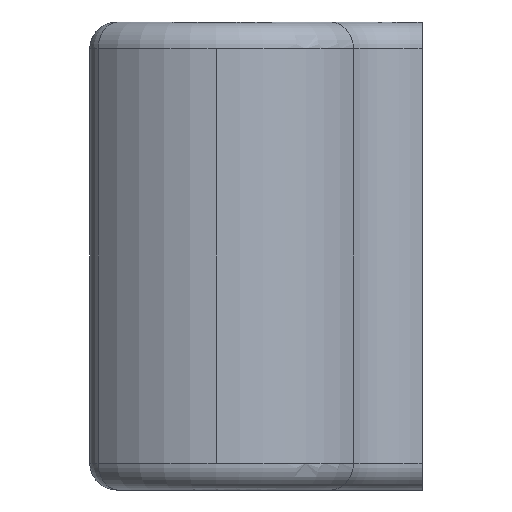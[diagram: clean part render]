
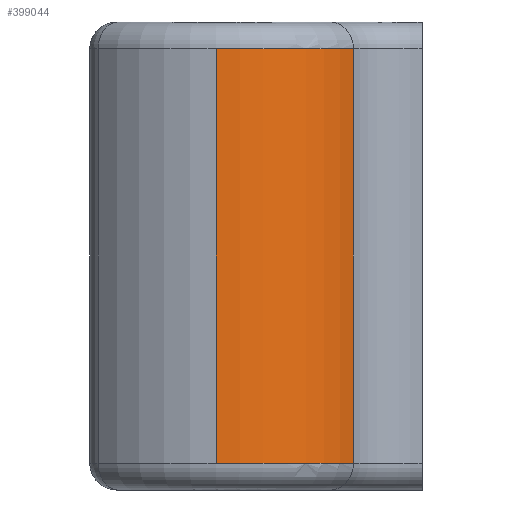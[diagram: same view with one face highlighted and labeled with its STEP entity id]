
A CAD part, left-side view. The second image highlights one B-rep face of the part: STEP entity #399044.
In plain terms, the highlighted cylindrical face has radius 14.981 mm (diameter 29.962 mm), a partial arc.
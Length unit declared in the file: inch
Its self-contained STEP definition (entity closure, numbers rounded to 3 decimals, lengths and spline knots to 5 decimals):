
#24990 = CYLINDRICAL_SURFACE ( 'NONE', #184323, 0.5898 ) ;
#31772 = EDGE_CURVE ( 'NONE', #355376, #74034, #201033, .T. ) ;
#37057 = EDGE_LOOP ( 'NONE', ( #179401, #285954, #321635, #51343 ) ) ;
#51343 = ORIENTED_EDGE ( 'NONE', *, *, #286778, .F. ) ;
#74034 = VERTEX_POINT ( 'NONE', #289309 ) ;
#91687 = LINE ( 'NONE', #216496, #359571 ) ;
#117173 = AXIS2_PLACEMENT_3D ( 'NONE', #308348, #306321, #208147 ) ;
#120792 = CARTESIAN_POINT ( 'NONE',  ( -2.42217, 0.53306, 0.875 ) ) ;
#144824 = DIRECTION ( 'NONE',  ( 0., 0., -1. ) ) ;
#150344 = EDGE_CURVE ( 'NONE', #316342, #242337, #293620, .T. ) ;
#171497 = DIRECTION ( 'NONE',  ( 1., 0., 0. ) ) ;
#179401 = ORIENTED_EDGE ( 'NONE', *, *, #31772, .T. ) ;
#184323 = AXIS2_PLACEMENT_3D ( 'NONE', #245924, #399393, #213202 ) ;
#194848 = CARTESIAN_POINT ( 'NONE',  ( -2.42217, 0.53306, -0.775 ) ) ;
#201033 = CIRCLE ( 'NONE', #358158, 0.5898 ) ;
#208147 = DIRECTION ( 'NONE',  ( 1., 0., 0. ) ) ;
#213202 = DIRECTION ( 'NONE',  ( -1., 0., 0. ) ) ;
#216496 = CARTESIAN_POINT ( 'NONE',  ( -2.12333, 0.02002, 0.875 ) ) ;
#242337 = VERTEX_POINT ( 'NONE', #319031 ) ;
#245924 = CARTESIAN_POINT ( 'NONE',  ( -1.83237, 0.53306, 0.875 ) ) ;
#245997 = CARTESIAN_POINT ( 'NONE',  ( -2.12333, 0.02002, 0.775 ) ) ;
#270568 = EDGE_CURVE ( 'NONE', #74034, #316342, #307012, .T. ) ;
#276625 = FACE_OUTER_BOUND ( 'NONE', #37057, .T. ) ;
#285954 = ORIENTED_EDGE ( 'NONE', *, *, #270568, .T. ) ;
#286778 = EDGE_CURVE ( 'NONE', #355376, #242337, #91687, .T. ) ;
#289309 = CARTESIAN_POINT ( 'NONE',  ( -2.42217, 0.53306, 0.775 ) ) ;
#293620 = CIRCLE ( 'NONE', #117173, 0.5898 ) ;
#306321 = DIRECTION ( 'NONE',  ( 0., 0., 1. ) ) ;
#307012 = LINE ( 'NONE', #120792, #346159 ) ;
#308348 = CARTESIAN_POINT ( 'NONE',  ( -1.83237, 0.53306, -0.775 ) ) ;
#309039 = DIRECTION ( 'NONE',  ( 0., 0., -1. ) ) ;
#316342 = VERTEX_POINT ( 'NONE', #194848 ) ;
#319031 = CARTESIAN_POINT ( 'NONE',  ( -2.12333, 0.02002, -0.775 ) ) ;
#321635 = ORIENTED_EDGE ( 'NONE', *, *, #150344, .T. ) ;
#346159 = VECTOR ( 'NONE', #309039, 39.37008 ) ;
#355376 = VERTEX_POINT ( 'NONE', #245997 ) ;
#358158 = AXIS2_PLACEMENT_3D ( 'NONE', #361728, #144824, #171497 ) ;
#359571 = VECTOR ( 'NONE', #369967, 39.37008 ) ;
#361728 = CARTESIAN_POINT ( 'NONE',  ( -1.83237, 0.53306, 0.775 ) ) ;
#369967 = DIRECTION ( 'NONE',  ( 0., 0., -1. ) ) ;
#399044 = ADVANCED_FACE ( 'NONE', ( #276625 ), #24990, .T. ) ;
#399393 = DIRECTION ( 'NONE',  ( 0., 0., -1. ) ) ;
